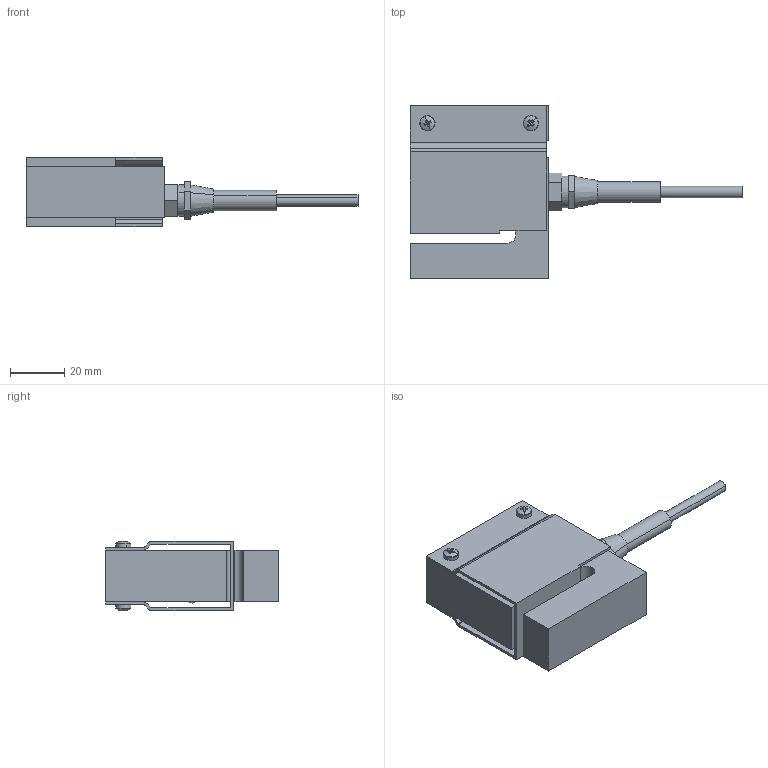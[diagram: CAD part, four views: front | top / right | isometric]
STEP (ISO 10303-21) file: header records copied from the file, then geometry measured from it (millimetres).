
FILE_DESCRIPTION (( 'STEP AP214' ), '1' );
FILE_NAME ('3D_KM1402_500N_1kN.STEP', '2013-12-19T14:03:50', ( '' ), ( '' ), 'SwSTEP 2.0', 'SolidWorks 2012', '' );
FILE_SCHEMA (( 'AUTOMOTIVE_DESIGN' ));
Length unit declared in the file: metre
Products named in the file (1): 3D_KM1402_500N_1kN
Bounding box: 121.9 x 63.5 x 25.61 mm (x, y, z)
Volume: 61457.1 mm3; surface area: 23220.6 mm2
Topology: 1 solids, 1 shells, 225 faces, 571 edges, 348 vertices
Faces by surface type: plane 138, cone 46, cylinder 25, torus 8, sphere 8
Entity records: 7614 total; most frequent: CARTESIAN_POINT 1299, DIRECTION 1195, ORIENTED_EDGE 1126, EDGE_CURVE 563, AXIS2_PLACEMENT_3D 460, VERTEX_POINT 348, LINE 275, VECTOR 275
